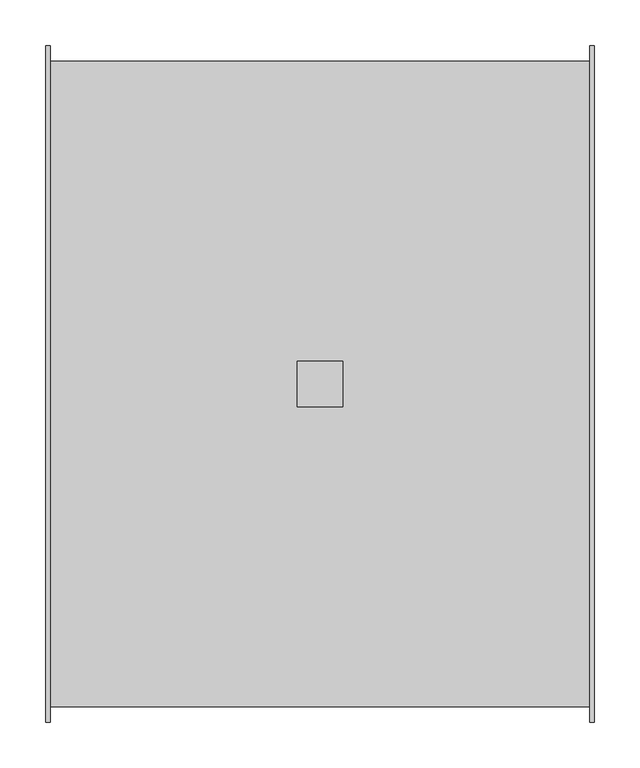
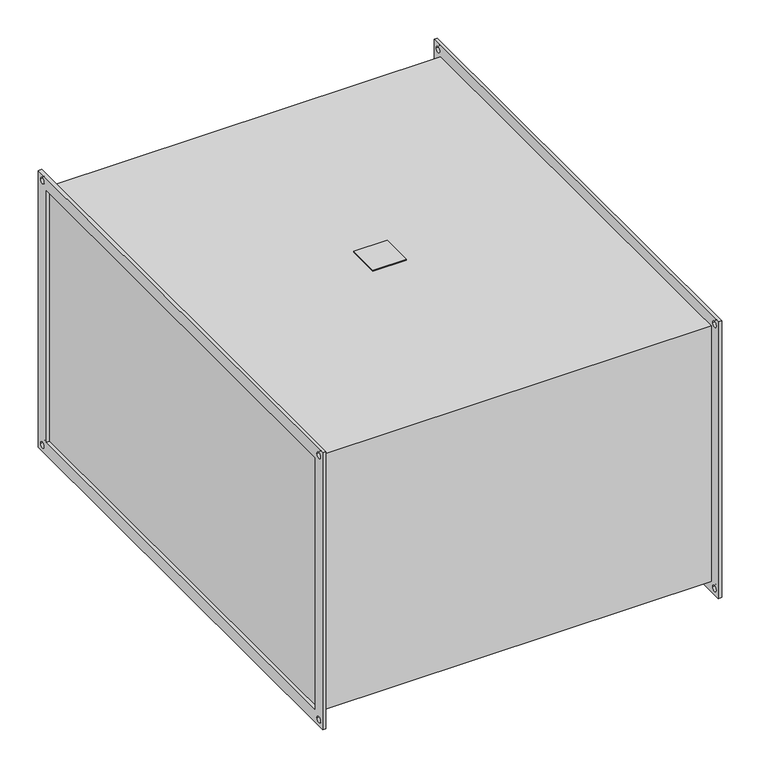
"""IFC4 building model written with IfcOpenShell, lengths in millimetres: proxy geometry, KORF_Вентилятор_WNP : WNP 70-40/31R.2D."""

from ifc_helpers import new_model, si_unit, point, frame, frame_2d, origin, place, context, project, spatial, polyline, circle_curve, trimmed, segment, composite_curve, outline, extrude, source, transform, mapped, element, save


def mechanical_equipment_6643551e(model_context):
    return source(origin(), model_context, "Body", "SweptSolid", [
        extrude(outline(polyline([(275.0, -25.0), (275.0, 25.0), (325.0, 25.0), (325.0, -25.0), (275.0, -25.0)])), frame((0.0, 0.0, 203.0), z_axis=(0.0, 0.0, 1.0), x_axis=(1.0, 0.0, 0.0)), (0.0, 0.0, 1.0), 2.0),
        extrude(outline(polyline([(-370.0, 220.0), (370.0, 220.0), (370.0, -220.0), (-370.0, -220.0), (-370.0, 220.0)]), holes=[polyline([(-350.0, 200.0), (-350.0, -200.0), (350.0, -200.0), (350.0, 200.0), (-350.0, 200.0)]), composite_curve([segment(trimmed(circle_curve(frame_2d((360.0, 210.0)), 4.5), [point((355.5, 210.0))], [point((364.5, 210.0))], True, "CARTESIAN"), True, "CONTINUOUS"), segment(trimmed(circle_curve(frame_2d((360.0, 210.0)), 4.5), [point((364.5, 210.0))], [point((355.5, 210.0))], True, "CARTESIAN"), True, "CONTINUOUS")], self_intersect=False), composite_curve([segment(trimmed(circle_curve(frame_2d((-360.0, 210.0)), 4.5), [point((-364.5, 210.0))], [point((-355.5, 210.0))], True, "CARTESIAN"), True, "CONTINUOUS"), segment(trimmed(circle_curve(frame_2d((-360.0, 210.0)), 4.5), [point((-355.5, 210.0))], [point((-364.5, 210.0))], True, "CARTESIAN"), True, "CONTINUOUS")], self_intersect=False), composite_curve([segment(trimmed(circle_curve(frame_2d((-360.0, -210.0)), 4.5), [point((-364.5, -210.0))], [point((-355.5, -210.0))], True, "CARTESIAN"), True, "CONTINUOUS"), segment(trimmed(circle_curve(frame_2d((-360.0, -210.0)), 4.5), [point((-355.5, -210.0))], [point((-364.5, -210.0))], True, "CARTESIAN"), True, "CONTINUOUS")], self_intersect=False), composite_curve([segment(trimmed(circle_curve(frame_2d((360.0, -210.0)), 4.5), [point((355.5, -210.0))], [point((364.5, -210.0))], True, "CARTESIAN"), True, "CONTINUOUS"), segment(trimmed(circle_curve(frame_2d((360.0, -210.0)), 4.5), [point((364.5, -210.0))], [point((355.5, -210.0))], True, "CARTESIAN"), True, "CONTINUOUS")], self_intersect=False)]), frame((595.0, 0.0, 0.0), z_axis=(1.0, 0.0, 0.0), x_axis=(0.0, 1.0, 0.0)), (0.0, 0.0, 1.0), 5.0),
        extrude(outline(polyline([(-370.0, 220.0), (370.0, 220.0), (370.0, -220.0), (-370.0, -220.0), (-370.0, 220.0)]), holes=[polyline([(-350.0, 200.0), (-350.0, -200.0), (350.0, -200.0), (350.0, 200.0), (-350.0, 200.0)]), composite_curve([segment(trimmed(circle_curve(frame_2d((360.0, 210.0)), 4.5), [point((355.5, 210.0))], [point((364.5, 210.0))], True, "CARTESIAN"), True, "CONTINUOUS"), segment(trimmed(circle_curve(frame_2d((360.0, 210.0)), 4.5), [point((364.5, 210.0))], [point((355.5, 210.0))], True, "CARTESIAN"), True, "CONTINUOUS")], self_intersect=False), composite_curve([segment(trimmed(circle_curve(frame_2d((-360.0, 210.0)), 4.5), [point((-364.5, 210.0))], [point((-355.5, 210.0))], True, "CARTESIAN"), True, "CONTINUOUS"), segment(trimmed(circle_curve(frame_2d((-360.0, 210.0)), 4.5), [point((-355.5, 210.0))], [point((-364.5, 210.0))], True, "CARTESIAN"), True, "CONTINUOUS")], self_intersect=False), composite_curve([segment(trimmed(circle_curve(frame_2d((-360.0, -210.0)), 4.5), [point((-364.5, -210.0))], [point((-355.5, -210.0))], True, "CARTESIAN"), True, "CONTINUOUS"), segment(trimmed(circle_curve(frame_2d((-360.0, -210.0)), 4.5), [point((-355.5, -210.0))], [point((-364.5, -210.0))], True, "CARTESIAN"), True, "CONTINUOUS")], self_intersect=False), composite_curve([segment(trimmed(circle_curve(frame_2d((360.0, -210.0)), 4.5), [point((355.5, -210.0))], [point((364.5, -210.0))], True, "CARTESIAN"), True, "CONTINUOUS"), segment(trimmed(circle_curve(frame_2d((360.0, -210.0)), 4.5), [point((364.5, -210.0))], [point((355.5, -210.0))], True, "CARTESIAN"), True, "CONTINUOUS")], self_intersect=False)]), frame((0.0, 0.0, 0.0), z_axis=(1.0, 0.0, 0.0), x_axis=(0.0, 1.0, 0.0)), (0.0, 0.0, 1.0), 5.0),
        extrude(outline(polyline([(595.0, 353.0), (595.0, -353.0), (5.0, -353.0), (5.0, 353.0), (595.0, 353.0)])), frame((0.0, 0.0, -203.0), z_axis=(0.0, 0.0, 1.0), x_axis=(1.0, 0.0, 0.0)), (0.0, 0.0, 1.0), 406.0),
    ])


if __name__ == "__main__":
    model = new_model("IFC4")
    model_context = context("Model", 3, world=origin())
    ifc_project = project(units=[si_unit("LENGTHUNIT", "METRE", prefix="MILLI")], contexts=[model_context])
    site = spatial("IfcSite", under=ifc_project)
    building = spatial("IfcBuilding", under=site)
    placement = place(None, origin())
    mechanical_equipment_shape = mechanical_equipment_6643551e(model_context)
    element("IfcBuildingElementProxy", 1, Name="KORF_Вентилятор_WNP : WNP 70-40/31R.2D", ObjectType="KORF_Вентилятор_WNP : WNP 70-40/31R.2D", at=placement, inside=building, context=model_context, shape_type="MappedRepresentation", body=[
        mapped(mechanical_equipment_shape, transform((0.0, 0.0, 0.0), x_axis=(1.0, 0.0, 0.0), y_axis=(0.0, 1.0, 0.0), z_axis=(0.0, 0.0, 1.0))),
    ])
    save(model, "model.ifc")
